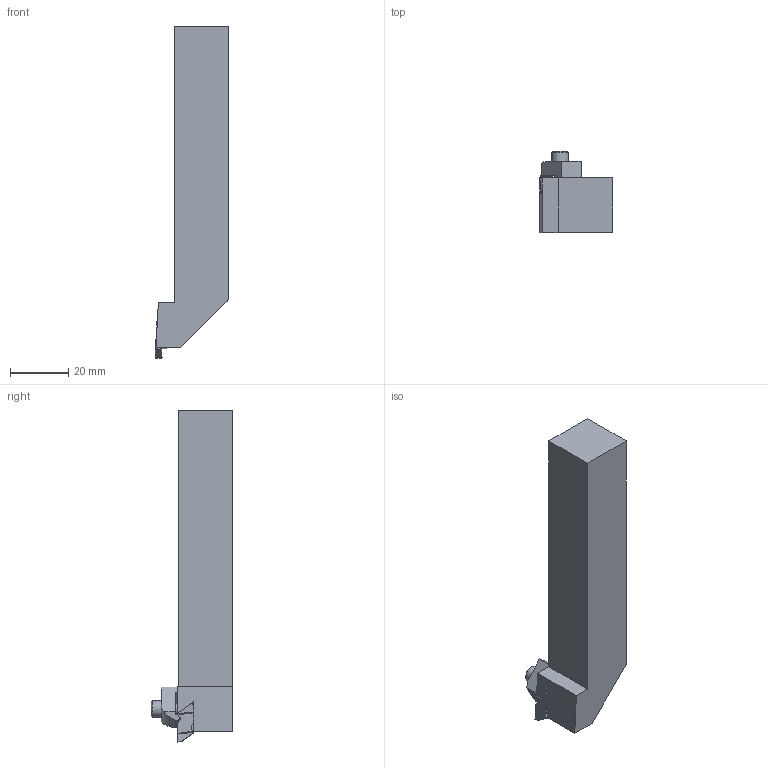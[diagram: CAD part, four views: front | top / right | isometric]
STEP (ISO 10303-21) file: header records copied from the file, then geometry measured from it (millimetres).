
FILE_DESCRIPTION(/* description */ (''),/* implementation_level */ '2;1');
FILE_NAME(/* name */ 'NSR122B_GTM.stp',/* time_stamp */ '2020-04-15T16:01:37+06:00',/* author */ (''),/* organization */ (''),/* preprocessor_version */ 'ST-DEVELOPER v16.7',/* originating_system */ 'SIEMENS PLM Software NX 12.0',/* authorisation */ '');
FILE_SCHEMA (('AUTOMOTIVE_DESIGN { 1 0 10303 214 3 1 1 1 }'));
Length unit declared in the file: millimetre
Products named in the file (1): NSR122B_GTM
Bounding box: 25.4 x 28.16 x 114.3 mm (x, y, z)
Volume: 39187 mm3; surface area: 9992 mm2
Topology: 4 solids, 4 shells, 81 faces, 219 edges, 152 vertices
Faces by surface type: plane 60, cylinder 15, bspline 4, cone 2
Full cylindrical faces by diameter (mm): 3.505 x1, 5.74 x1
Entity records: 2718 total; most frequent: CARTESIAN_POINT 589, ORIENTED_EDGE 420, DIRECTION 412, EDGE_CURVE 210, LINE 162, VECTOR 162, VERTEX_POINT 142, AXIS2_PLACEMENT_3D 125
